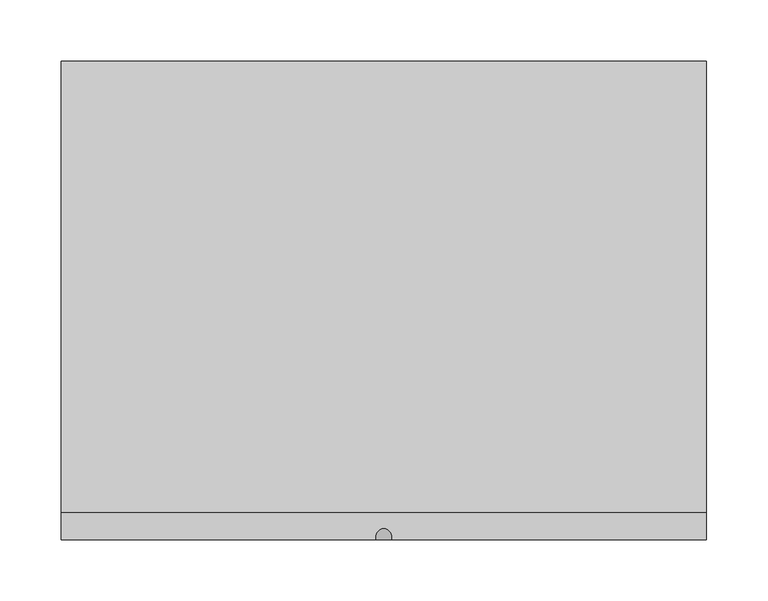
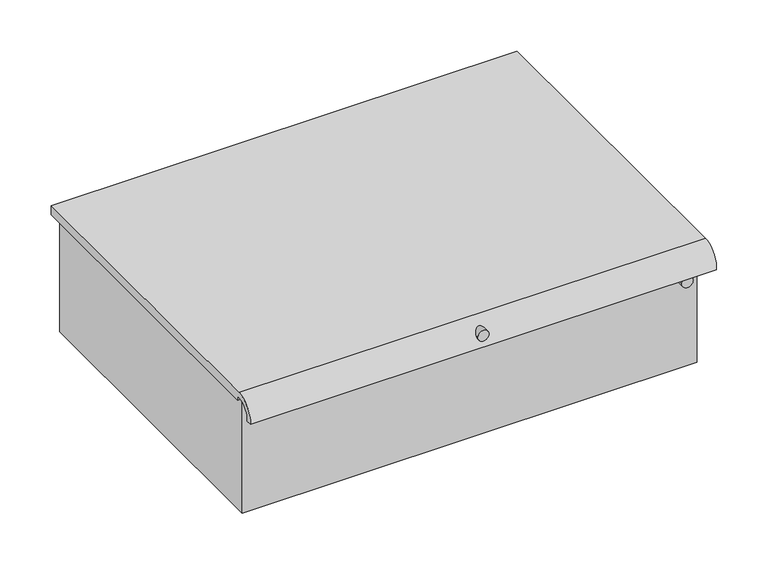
"""IFC4 building model written with IfcOpenShell, lengths in millimetres: furniture geometry."""

from ifc_helpers import new_model, si_unit, point, frame, frame_2d, origin, place, context, project, spatial, polyline, circle_curve, trimmed, segment, composite_curve, outline, extrude, source, transform, mapped, element, save
from ifc_brep_helpers import plane_surface, cylinder_surface, revolved_surface, advanced_brep


def furniture_3f30126e(model_context):
    return source(origin(), model_context, "Body", "SolidModel", [
        extrude(outline(composite_curve([segment(trimmed(circle_curve(frame_2d((428.5361, 231.9974999)), 6.35), [point((428.5361, 238.3474999))], [point((428.5361, 225.6474999))], False, "CARTESIAN"), True, "CONTINUOUS"), segment(trimmed(circle_curve(frame_2d((428.5361, 231.9974999)), 6.35), [point((428.5361, 225.6474999))], [point((428.5361, 238.3474999))], False, "CARTESIAN"), True, "CONTINUOUS")], self_intersect=False)), frame((0.0, -182.5625, 0.0), z_axis=(0.0, 1.0, 0.0), x_axis=(0.0, 0.0, 1.0)), (0.0, 0.0, 1.0), 14.3002),
        extrude(outline(composite_curve([segment(trimmed(circle_curve(frame_2d((455.5363, -6.1275001)), 6.35), [point((455.5363, 0.2224999))], [point((455.5363, -12.4775001))], False, "CARTESIAN"), True, "CONTINUOUS"), segment(trimmed(circle_curve(frame_2d((455.5363, -6.1275001)), 6.35), [point((455.5363, -12.4775001))], [point((455.5363, 0.2224999))], False, "CARTESIAN"), True, "CONTINUOUS")], self_intersect=False)), frame((0.0, -195.2625, 0.0), z_axis=(0.0, 1.0, 0.0), x_axis=(0.0, 0.0, 1.0)), (0.0, 0.0, 1.0), 27.0002),
        advanced_brep(
        [(-263.3025001, -168.2623, 317.4111), (251.0474999, -168.2623, 317.4111), (251.0474999, -168.2623, 455.5363), (-263.3025001, -168.2623, 455.5363), (251.0474999, 188.9125, 317.4111), (-263.3025001, 188.9125, 317.4111), (-263.3025001, 188.9125, 455.5363), (251.0474999, 188.9125, 455.5363), (257.3974999, -173.1367188, 466.6361), (257.3974999, 195.2625, 466.6361), (-269.6525001, 195.2625, 466.6361), (-269.6525001, -173.1367188, 466.6361), (257.3974999, -195.2625, 441.99302), (257.3974999, -188.8606628, 441.99302), (257.3974999, -173.1367188, 460.2861), (257.3974999, -169.8625, 460.2861), (257.3974999, -169.8625, 455.5363), (257.3974999, 195.2625, 455.5363), (-269.6525001, 195.2625, 455.5363), (-269.6525001, -169.8625, 455.5363), (-269.6525001, -169.8625, 460.2861), (-269.6525001, -173.1367188, 460.2861), (-269.6525001, -188.8606628, 441.99302), (-269.6525001, -195.2625, 441.99302)],
        [
            (0, 1),
            (1, 2),
            (2, 3),
            (3, 0),
            (4, 5),
            (5, 6),
            (6, 7),
            (7, 4),
            (0, 5),
            (4, 1),
            (7, 2),
            (8, 9),
            (9, 10),
            (10, 11),
            (11, 8),
            (3, 6),
            (8, 12, circle_curve(frame((257.3974999, -173.1367188, 444.3817473), z_axis=(1.0, 0.0, 0.0), x_axis=(0.0, 1.0, 0.0)), 22.2543527)),
            (12, 13),
            (13, 14, circle_curve(frame((257.3974999, -173.1367188, 444.3817473), z_axis=(-1.0, 0.0, 0.0), x_axis=(0.0, 1.0, 0.0)), 15.9043527)),
            (14, 15),
            (15, 16),
            (16, 17),
            (17, 9),
            (10, 18),
            (18, 19),
            (19, 20),
            (20, 21),
            (21, 22, circle_curve(frame((-269.6525001, -173.1367188, 444.3817473), z_axis=(1.0, 0.0, 0.0), x_axis=(0.0, 1.0, 0.0)), 15.9043527)),
            (22, 23),
            (23, 11, circle_curve(frame((-269.6525001, -173.1367188, 444.3817473), z_axis=(-1.0, 0.0, 0.0), x_axis=(0.0, 1.0, 0.0)), 22.2543527)),
            (23, 12),
            (22, 13),
            (21, 14),
            (20, 15),
            (19, 16),
            (18, 17),
        ],
        [
            plane_surface(frame((251.0474999, -168.2623, 317.4111), z_axis=(0.0, -1.0, 0.0), x_axis=(1.0, 0.0, 0.0))),
            plane_surface(frame((251.0474999, 188.9125, 317.4111), z_axis=(0.0, 1.0, 0.0), x_axis=(-1.0, 0.0, 0.0))),
            plane_surface(frame((-263.3025001, -168.2623, 317.4111), z_axis=(0.0, 0.0, -1.0), x_axis=(0.0, 1.0, 0.0))),
            plane_surface(frame((251.0474999, -168.2623, 317.4111), z_axis=(1.0, 0.0, 0.0), x_axis=(0.0, 1.0, 0.0))),
            plane_surface(frame((251.0474999, -168.2623, 466.6361), z_axis=(0.0, 0.0, 1.0), x_axis=(0.0, 1.0, 0.0))),
            plane_surface(frame((-263.3025001, -168.2623, 466.6361), z_axis=(-1.0, 0.0, 0.0), x_axis=(0.0, 1.0, 0.0))),
            plane_surface(frame((257.3974999, 195.2625, 466.6361), z_axis=(1.0, 0.0, 0.0), x_axis=(0.0, -1.0, 0.0))),
            plane_surface(frame((-269.6525001, 195.2625, 466.6361), z_axis=(-1.0, 0.0, 0.0), x_axis=(0.0, 1.0, 0.0))),
            cylinder_surface(frame((-269.6525001, -173.1367188, 444.3817473), z_axis=(1.0, 0.0, 0.0), x_axis=(0.0, 1.0, 0.0)), 22.2543527),
            plane_surface(frame((257.3974999, -195.2625, 441.99302), z_axis=(0.0, 0.0, -1.0), x_axis=(-1.0, 0.0, 0.0))),
            revolved_surface(polyline([(-269.6525001, -157.2323661, 444.3817473), (257.39749989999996, -157.2323661, 444.3817473)]), (-269.6525001, -173.1367188, 444.3817473), (-1.0, 0.0, 0.0)),
            plane_surface(frame((257.3974999, -173.1367188, 460.2861), z_axis=(0.0, -1.0541870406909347e-12, -1.0), x_axis=(-1.0, 0.0, 0.0))),
            plane_surface(frame((257.3974999, -169.8625, 460.2861), z_axis=(0.0, -1.0, 0.0), x_axis=(-1.0, 0.0, 0.0))),
            plane_surface(frame((257.3974999, -169.8625, 455.5363), z_axis=(0.0, 0.0, -1.0), x_axis=(-1.0, 0.0, 0.0))),
            plane_surface(frame((257.3974999, 195.2625, 455.5363), z_axis=(0.0, 1.0, 0.0), x_axis=(-1.0, 0.0, 0.0))),
        ],
        [
            (0, [[1, 2, 3, 4]]),
            (1, [[5, 6, 7, 8]]),
            (2, [[-1, 9, -5, 10]]),
            (3, [[-10, -8, 11, -2]]),
            (4, [[12, 13, 14, 15]]),
            (5, [[-9, -4, 16, -6]]),
            (6, [[-12, 17, 18, 19, 20, 21, 22, 23]]),
            (7, [[24, 25, 26, 27, 28, 29, 30, -14]]),
            (8, [[-17, -15, -30, 31]]),
            (9, [[-18, -31, -29, 32]]),
            (10, [[-19, -32, -28, 33]]),
            (11, [[-20, -33, -27, 34]]),
            (12, [[-21, -34, -26, 35]]),
            (13, [[-22, -35, -25, 36], [-3, -11, -7, -16]]),
            (14, [[-23, -36, -24, -13]]),
        ],
    ),
    ])


if __name__ == "__main__":
    model = new_model("IFC4")
    model_context = context("Model", 3, world=origin())
    ifc_project = project(units=[si_unit("LENGTHUNIT", "METRE", prefix="MILLI")], contexts=[model_context])
    site = spatial("IfcSite", under=ifc_project)
    building = spatial("IfcBuilding", under=site)
    placement = place(None, origin())
    furniture_shape = furniture_3f30126e(model_context)
    element("IfcFurniture", 1, ObjectType="HermanMiller_CoStruc_CO371_LockedDrawerWithLockableLid : B - 6\"H x 15\"D x 20\"W Lid Wlock", at=placement, inside=building, context=model_context, shape_type="MappedRepresentation", body=[
        mapped(furniture_shape, transform((0.0, 0.0, 0.0), x_axis=(1.0, 0.0, 0.0), y_axis=(0.0, 1.0, 0.0), z_axis=(0.0, 0.0, 1.0))),
    ])
    save(model, "model.ifc")
